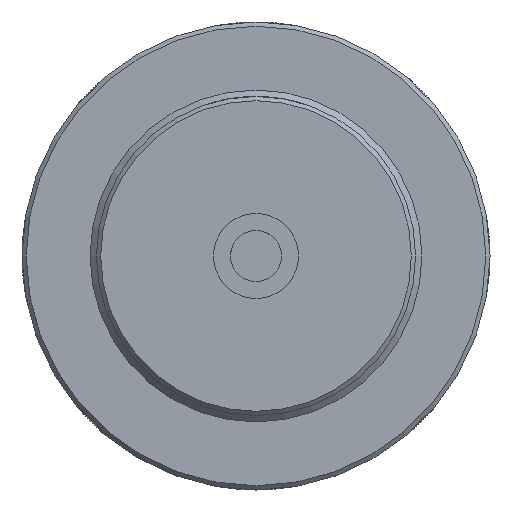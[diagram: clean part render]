
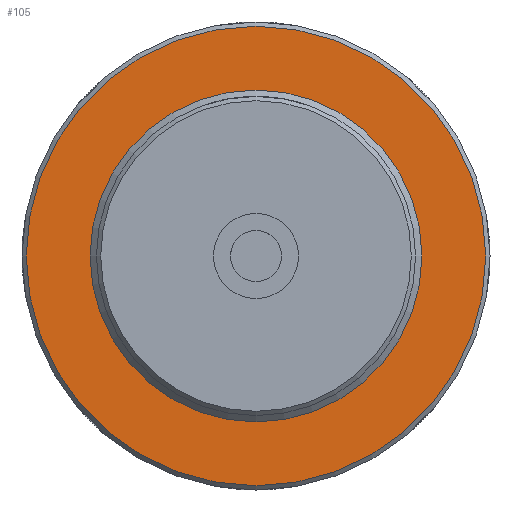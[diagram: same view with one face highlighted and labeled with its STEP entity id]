
A CAD part, left-side view. The second image highlights one B-rep face of the part: STEP entity #105.
In plain terms, the highlighted planar face has unit normal (-1, 0, 0).
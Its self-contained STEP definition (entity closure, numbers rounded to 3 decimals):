
#105 = ADVANCED_FACE( '', ( #219, #220 ), #221, .T. );
#219 = FACE_OUTER_BOUND( '', #360, .T. );
#220 = FACE_BOUND( '', #361, .T. );
#221 = PLANE( '', #362 );
#360 = EDGE_LOOP( '', ( #562 ) );
#361 = EDGE_LOOP( '', ( #563 ) );
#362 = AXIS2_PLACEMENT_3D( '', #564, #565, #566 );
#562 = ORIENTED_EDGE( '', *, *, #664, .T. );
#563 = ORIENTED_EDGE( '', *, *, #638, .T. );
#564 = CARTESIAN_POINT( '', ( 49., 0., 39. ) );
#565 = DIRECTION( '', ( -1., 0., 0. ) );
#566 = DIRECTION( '', ( 0., 0., 1. ) );
#638 = EDGE_CURVE( '', #695, #695, #696, .F. );
#664 = EDGE_CURVE( '', #733, #733, #734, .T. );
#695 = VERTEX_POINT( '', #915 );
#696 = CIRCLE( '', #916, 39. );
#733 = VERTEX_POINT( '', #1343 );
#734 = CIRCLE( '', #1344, 54. );
#915 = CARTESIAN_POINT( '', ( 49., 0., 39. ) );
#916 = AXIS2_PLACEMENT_3D( '', #1484, #1485, #1486 );
#1343 = CARTESIAN_POINT( '', ( 49., 0., 54. ) );
#1344 = AXIS2_PLACEMENT_3D( '', #1523, #1524, #1525 );
#1484 = CARTESIAN_POINT( '', ( 49., 0., 0. ) );
#1485 = DIRECTION( '', ( -1., 0., 0. ) );
#1486 = DIRECTION( '', ( 0., 0., 1. ) );
#1523 = CARTESIAN_POINT( '', ( 49., 0., 0. ) );
#1524 = DIRECTION( '', ( -1., 0., 0. ) );
#1525 = DIRECTION( '', ( 0., 0., 1. ) );
